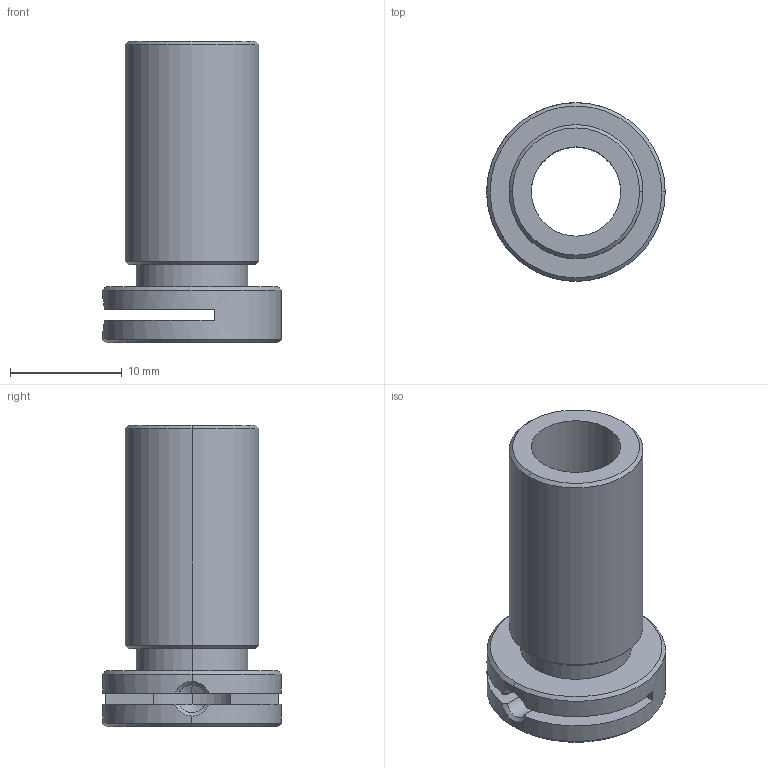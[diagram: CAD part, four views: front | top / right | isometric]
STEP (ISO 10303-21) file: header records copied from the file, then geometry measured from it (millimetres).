
FILE_DESCRIPTION (( 'STEP AP203' ), '1' );
FILE_NAME ('肣杶.STEP', '2026-09-23T02:13:25', ( '' ), ( '' ), 'SwSTEP 2.0', 'SolidWorks 2024', '' );
FILE_SCHEMA (( 'CONFIG_CONTROL_DESIGN' ));
Length unit declared in the file: millimetre
Products named in the file (1): 铜套
Bounding box: 16 x 16 x 27 mm (x, y, z)
Volume: 1958.8 mm3; surface area: 2229.1 mm2
Topology: 1 solids, 1 shells, 34 faces, 85 edges, 53 vertices
Faces by surface type: cone 13, cylinder 11, plane 8, bspline 2
Entity records: 1709 total; most frequent: CARTESIAN_POINT 813, DIRECTION 174, ORIENTED_EDGE 170, EDGE_CURVE 85, AXIS2_PLACEMENT_3D 70, VERTEX_POINT 53, EDGE_LOOP 38, CIRCLE 37
